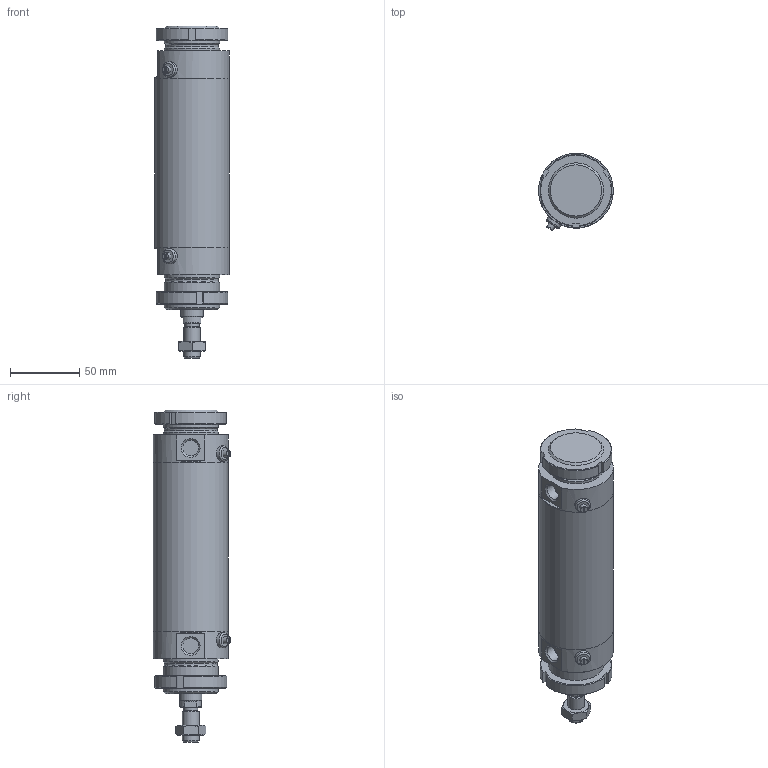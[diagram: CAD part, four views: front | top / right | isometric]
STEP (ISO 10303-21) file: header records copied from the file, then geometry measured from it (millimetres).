
FILE_DESCRIPTION(/* description */ (''),/* implementation_level */ '2;1');
FILE_NAME(/* name */ 'I:\Area Tecnica\Documenti\A-Manieri\_Inventor\12X\12X#C_###_####_#_#\12XBC_050_0080_#_#.stp',/* time_stamp */ '2015-04-28T15:43:41+02:00',/* author */ ('maniean1'),/* organization */ ('Pneumax S.p.A.'),/* preprocessor_version */ 'ST-DEVELOPER v15.2',/* originating_system */ 'Autodesk Inventor 2014',/* authorisation */ '');
FILE_SCHEMA (('AUTOMOTIVE_DESIGN { 1 0 10303 214 3 1 1 }'));
Length unit declared in the file: millimetre
Products named in the file (7): C1250_619-0080; 12X50_606; S12X50_0080; 12X_50_11; 12X50_621; G12X_050_05; 12XBC_050_0080_#_#
Bounding box: 54 x 55.88 x 240 mm (x, y, z)
Volume: 304355.7 mm3; surface area: 92183 mm2
Topology: 7 solids, 7 shells, 124 faces, 282 edges, 182 vertices
Faces by surface type: plane 64, cylinder 31, cone 27, torus 2
Full cylindrical faces by diameter (mm): 5 x2, 10.2 x1, 11 x2, 11.4 x2, 12 x2, 14 x1, 15.6 x1, 16 x1, 38.2 x2, 40 x6, 50 x2, 54 x3
Entity records: 2755 total; most frequent: CARTESIAN_POINT 553, DIRECTION 462, ORIENTED_EDGE 356, AXIS2_PLACEMENT_3D 197, EDGE_CURVE 178, EDGE_LOOP 160, VERTEX_POINT 136, ADVANCED_FACE 103
